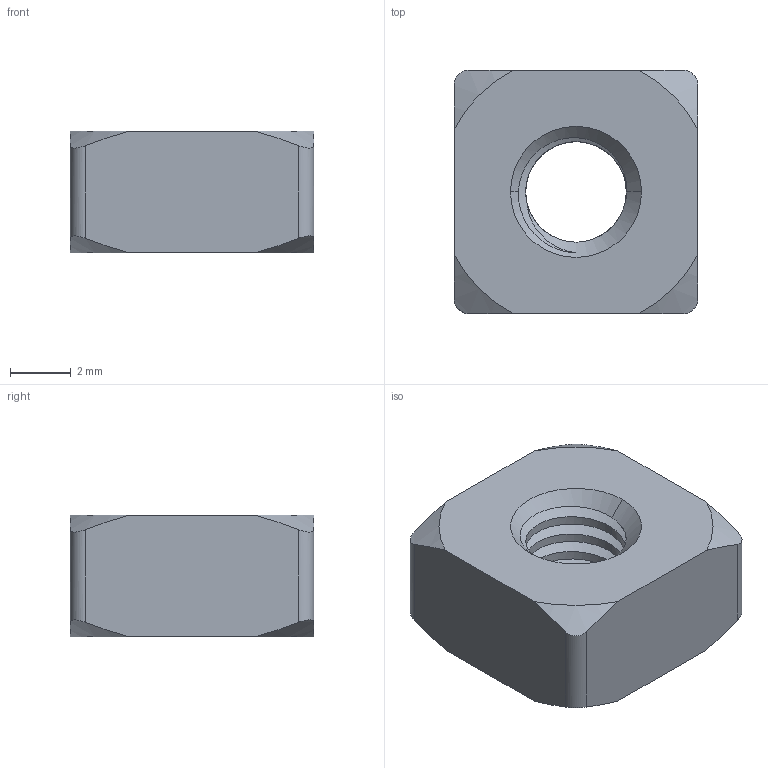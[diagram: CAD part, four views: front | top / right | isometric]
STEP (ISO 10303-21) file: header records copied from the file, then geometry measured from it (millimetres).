
FILE_DESCRIPTION (( 'STEP AP203' ), '1' );
FILE_NAME ('129-CE-EQN-20.STEP', '2015-07-09T08:57:39', ( '' ), ( '' ), 'SwSTEP 2.0', 'SolidWorks 2013', '' );
FILE_SCHEMA (( 'CONFIG_CONTROL_DESIGN' ));
Length unit declared in the file: millimetre
Products named in the file (1): 129-CE-EQN-20
Bounding box: 8 x 8 x 4 mm (x, y, z)
Volume: 212.1 mm3; surface area: 287.8 mm2
Topology: 1 solids, 1 shells, 35 faces, 98 edges, 65 vertices
Faces by surface type: cylinder 14, cone 13, plane 6, bspline 2
Entity records: 1837 total; most frequent: CARTESIAN_POINT 970, ORIENTED_EDGE 196, DIRECTION 128, EDGE_CURVE 98, VERTEX_POINT 65, AXIS2_PLACEMENT_3D 49, EDGE_LOOP 37, ADVANCED_FACE 35
